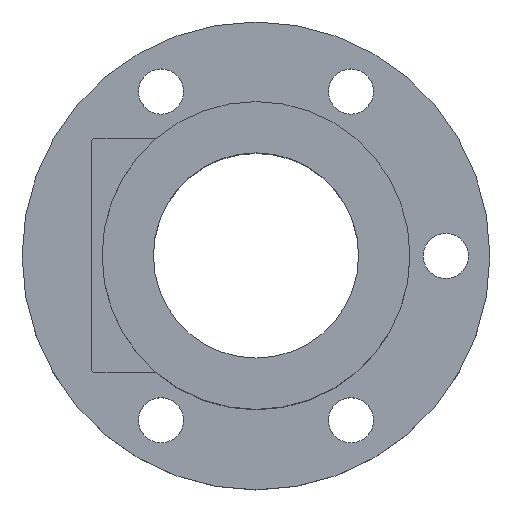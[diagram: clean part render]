
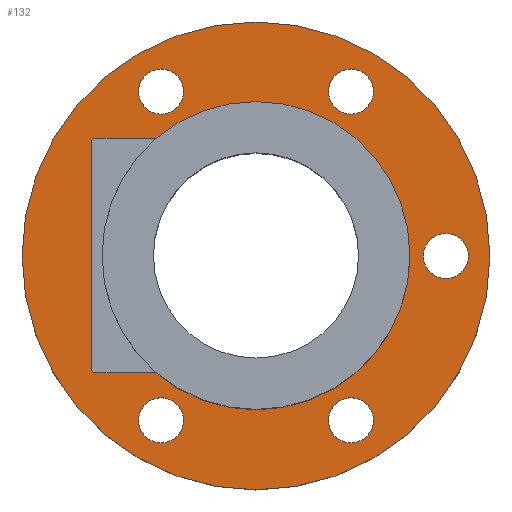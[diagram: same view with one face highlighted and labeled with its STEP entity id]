
A CAD part, top view. The second image highlights one B-rep face of the part: STEP entity #132.
In plain terms, the highlighted planar face has unit normal (0, 0, 1).
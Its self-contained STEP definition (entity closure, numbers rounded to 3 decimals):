
#97=PLANE('',#557);
#114=FACE_OUTER_BOUND('',#269,.T.);
#132=ADVANCED_FACE('',(#221,#222,#223,#114,#224,#225,#226),#97,.T.);
#221=FACE_BOUND('',#266,.T.);
#222=FACE_BOUND('',#267,.T.);
#223=FACE_BOUND('',#268,.T.);
#224=FACE_BOUND('',#270,.T.);
#225=FACE_BOUND('',#271,.T.);
#226=FACE_BOUND('',#272,.T.);
#266=EDGE_LOOP('',(#331));
#267=EDGE_LOOP('',(#332));
#268=EDGE_LOOP('',(#333));
#269=EDGE_LOOP('',(#334));
#270=EDGE_LOOP('',(#335));
#271=EDGE_LOOP('',(#336));
#272=EDGE_LOOP('',(#337));
#331=ORIENTED_EDGE('',*,*,#473,.F.);
#332=ORIENTED_EDGE('',*,*,#474,.F.);
#333=ORIENTED_EDGE('',*,*,#468,.F.);
#334=ORIENTED_EDGE('',*,*,#475,.T.);
#335=ORIENTED_EDGE('',*,*,#476,.F.);
#336=ORIENTED_EDGE('',*,*,#477,.F.);
#337=ORIENTED_EDGE('',*,*,#478,.F.);
#426=VERTEX_POINT('',#748);
#431=VERTEX_POINT('',#759);
#432=VERTEX_POINT('',#761);
#433=VERTEX_POINT('',#763);
#434=VERTEX_POINT('',#765);
#435=VERTEX_POINT('',#767);
#436=VERTEX_POINT('',#769);
#468=EDGE_CURVE('',#426,#426,#518,.T.);
#473=EDGE_CURVE('',#431,#431,#521,.T.);
#474=EDGE_CURVE('',#432,#432,#522,.T.);
#475=EDGE_CURVE('',#433,#433,#523,.T.);
#476=EDGE_CURVE('',#434,#434,#524,.T.);
#477=EDGE_CURVE('',#435,#435,#525,.T.);
#478=EDGE_CURVE('',#436,#436,#526,.T.);
#518=CIRCLE('',#547,75.);
#521=CIRCLE('',#551,11.);
#522=CIRCLE('',#552,11.);
#523=CIRCLE('',#553,114.);
#524=CIRCLE('',#554,11.);
#525=CIRCLE('',#555,11.);
#526=CIRCLE('',#556,11.);
#547=AXIS2_PLACEMENT_3D('',#747,#608,#609);
#551=AXIS2_PLACEMENT_3D('',#758,#618,#619);
#552=AXIS2_PLACEMENT_3D('',#760,#620,#621);
#553=AXIS2_PLACEMENT_3D('',#762,#622,#623);
#554=AXIS2_PLACEMENT_3D('',#764,#624,#625);
#555=AXIS2_PLACEMENT_3D('',#766,#626,#627);
#556=AXIS2_PLACEMENT_3D('',#768,#628,#629);
#557=AXIS2_PLACEMENT_3D('',#770,#630,#631);
#608=DIRECTION('',(0.,0.,1.));
#609=DIRECTION('',(1.,0.,0.));
#618=DIRECTION('',(0.,0.,1.));
#619=DIRECTION('',(-0.5,-0.866,0.));
#620=DIRECTION('',(0.,0.,1.));
#621=DIRECTION('',(0.5,0.866,0.));
#622=DIRECTION('',(0.,0.,1.));
#623=DIRECTION('',(1.,0.,0.));
#624=DIRECTION('',(0.,0.,1.));
#625=DIRECTION('',(1.,0.,0.));
#626=DIRECTION('',(0.,0.,1.));
#627=DIRECTION('',(-1.,0.,0.));
#628=DIRECTION('',(0.,0.,1.));
#629=DIRECTION('',(0.5,-0.866,0.));
#630=DIRECTION('',(0.,0.,1.));
#631=DIRECTION('',(1.,0.,0.));
#747=CARTESIAN_POINT('',(0.,0.,32.));
#748=CARTESIAN_POINT('',(75.,0.,32.));
#758=CARTESIAN_POINT('',(46.25,-80.107,32.));
#759=CARTESIAN_POINT('',(40.75,-89.634,32.));
#760=CARTESIAN_POINT('',(-46.25,80.107,32.));
#761=CARTESIAN_POINT('',(-40.75,89.634,32.));
#762=CARTESIAN_POINT('',(0.,0.,32.));
#763=CARTESIAN_POINT('',(114.,0.,32.));
#764=CARTESIAN_POINT('',(46.25,80.107,32.));
#765=CARTESIAN_POINT('',(57.25,80.107,32.));
#766=CARTESIAN_POINT('',(-46.25,-80.107,32.));
#767=CARTESIAN_POINT('',(-57.25,-80.107,32.));
#768=CARTESIAN_POINT('',(92.5,0.,32.));
#769=CARTESIAN_POINT('',(98.,-9.526,32.));
#770=CARTESIAN_POINT('',(0.,0.,32.));
